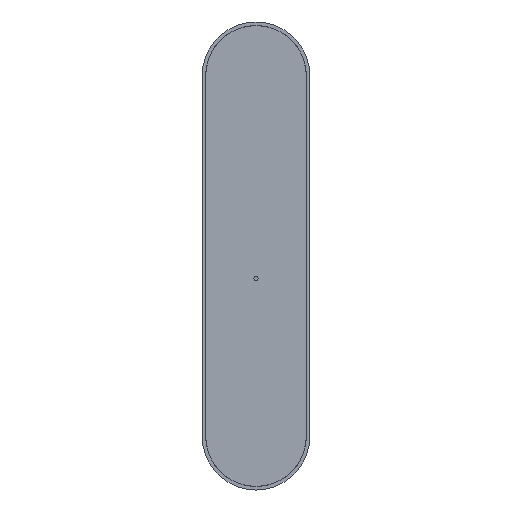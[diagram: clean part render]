
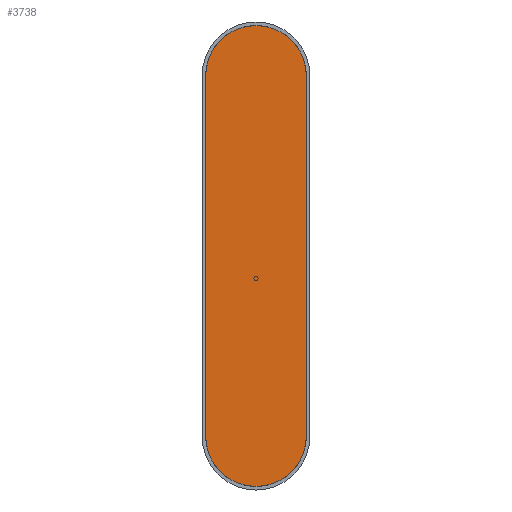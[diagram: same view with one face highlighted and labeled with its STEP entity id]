
A CAD part, left-side view. The second image highlights one B-rep face of the part: STEP entity #3738.
In plain terms, the highlighted planar face has unit normal (-1, 0, 0).
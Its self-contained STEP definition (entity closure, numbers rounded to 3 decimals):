
#123=PLANE('',#4099);
#291=FACE_OUTER_BOUND('',#494,.T.);
#494=EDGE_LOOP('',(#3036,#3037,#3038,#3039));
#687=CIRCLE('',#4100,49.);
#688=CIRCLE('',#4101,49.);
#1023=LINE('',#6307,#1312);
#1024=LINE('',#6310,#1313);
#1312=VECTOR('',#5024,10.);
#1313=VECTOR('',#5027,10.);
#1637=VERTEX_POINT('',#6303);
#1638=VERTEX_POINT('',#6304);
#1639=VERTEX_POINT('',#6306);
#1640=VERTEX_POINT('',#6308);
#2117=EDGE_CURVE('',#1637,#1638,#687,.T.);
#2118=EDGE_CURVE('',#1639,#1637,#1023,.T.);
#2119=EDGE_CURVE('',#1640,#1639,#688,.T.);
#2120=EDGE_CURVE('',#1638,#1640,#1024,.T.);
#3036=ORIENTED_EDGE('',*,*,#2117,.F.);
#3037=ORIENTED_EDGE('',*,*,#2118,.F.);
#3038=ORIENTED_EDGE('',*,*,#2119,.F.);
#3039=ORIENTED_EDGE('',*,*,#2120,.F.);
#3738=ADVANCED_FACE('',(#291),#123,.F.);
#4099=AXIS2_PLACEMENT_3D('',#6302,#5020,#5021);
#4100=AXIS2_PLACEMENT_3D('',#6305,#5022,#5023);
#4101=AXIS2_PLACEMENT_3D('',#6309,#5025,#5026);
#5020=DIRECTION('center_axis',(1.,0.,0.));
#5021=DIRECTION('ref_axis',(0.,-1.,0.));
#5022=DIRECTION('center_axis',(1.,0.,0.));
#5023=DIRECTION('ref_axis',(0.,-1.,0.));
#5024=DIRECTION('',(0.,0.,-1.));
#5025=DIRECTION('center_axis',(1.,0.,0.));
#5026=DIRECTION('ref_axis',(0.,1.,0.));
#5027=DIRECTION('',(0.,0.,1.));
#6302=CARTESIAN_POINT('Origin',(-4.197,0.,
0.));
#6303=CARTESIAN_POINT('',(-4.197,-49.,-175.5));
#6304=CARTESIAN_POINT('',(-4.197,49.,-175.5));
#6305=CARTESIAN_POINT('Origin',(-4.197,0.,
-175.5));
#6306=CARTESIAN_POINT('',(-4.197,-49.,175.5));
#6307=CARTESIAN_POINT('',(-4.197,-49.,175.5));
#6308=CARTESIAN_POINT('',(-4.197,49.,175.5));
#6309=CARTESIAN_POINT('Origin',(-4.197,0.,
175.5));
#6310=CARTESIAN_POINT('',(-4.197,49.,-175.5));
